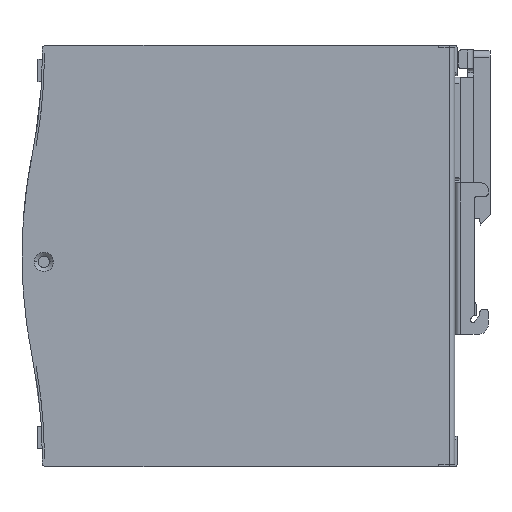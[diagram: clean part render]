
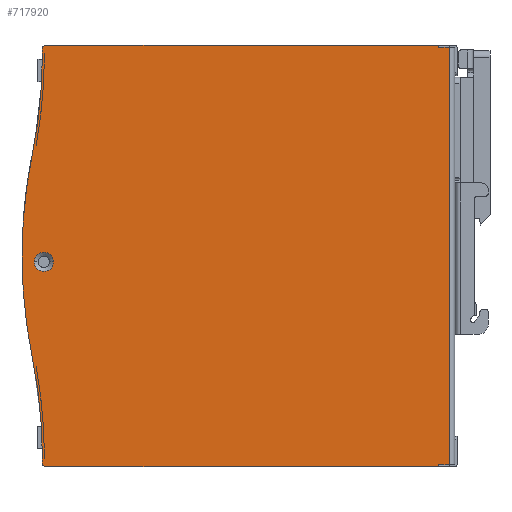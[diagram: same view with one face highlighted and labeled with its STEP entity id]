
A CAD part, front view. The second image highlights one B-rep face of the part: STEP entity #717920.
In plain terms, the highlighted planar face has unit normal (0, -1, 0).
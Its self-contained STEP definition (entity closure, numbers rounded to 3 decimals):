
#210=CARTESIAN_POINT('',(1778.628,13.486,
8925.08));
#220=VERTEX_POINT('',#210);
#250=CARTESIAN_POINT('',(1928.628,13.486,
8925.122));
#260=DIRECTION('',(0.,-1.,0.));
#270=DIRECTION('',(0.,0.,1.));
#280=AXIS2_PLACEMENT_3D('',#250,#260,#270);
#290=CIRCLE('',#280,150.);
#300=CARTESIAN_POINT('',(1781.106,13.486,
8952.276));
#310=VERTEX_POINT('',#300);
#320=EDGE_CURVE('',#310,#220,#290,.T.);
#11800=CARTESIAN_POINT('',(1782.251,13.486,9015.251))
;
#11810=VERTEX_POINT('',#11800);
#11840=CARTESIAN_POINT('',(1929.642,13.486,9045.252))
;
#11850=DIRECTION('',(0.,-1.,0.));
#11860=DIRECTION('',(1.,0.,0.));
#11870=AXIS2_PLACEMENT_3D('',#11840,#11850,#11860);
#11880=CIRCLE('',#11870,150.414);
#11890=CARTESIAN_POINT('',(1779.228,13.486,9045.252))
;
#11900=VERTEX_POINT('',#11890);
#11910=EDGE_CURVE('',#11900,#11810,#11880,.T.);
#20420=CARTESIAN_POINT('',(1634.793,13.486,8985.141))
;
#20430=DIRECTION('',(0.,-1.,0.));
#20440=DIRECTION('',(1.,0.,0.));
#20450=AXIS2_PLACEMENT_3D('',#20420,#20430,#20440);
#20460=CIRCLE('',#20450,150.5);
#20470=CARTESIAN_POINT('',(1782.251,13.486,8955.031))
;
#20480=VERTEX_POINT('',#20470);
#20490=CARTESIAN_POINT('',(1785.293,13.486,8985.141))
;
#20500=VERTEX_POINT('',#20490);
#20510=EDGE_CURVE('',#20480,#20500,#20460,.T.);
#20900=CARTESIAN_POINT('',(1779.228,13.486,8925.03))
;
#20910=VERTEX_POINT('',#20900);
#21070=CARTESIAN_POINT('',(1779.235,13.486,8923.551));
#21080=VERTEX_POINT('',#21070);
#21110=CARTESIAN_POINT('',(1929.642,13.486,8925.03))
;
#21120=DIRECTION('',(0.,-1.,0.));
#21130=DIRECTION('',(1.,0.,0.));
#21140=AXIS2_PLACEMENT_3D('',#21110,#21120,#21130);
#21150=CIRCLE('',#21140,150.414);
#21160=EDGE_CURVE('',#20910,#21080,#21150,.T.);
#118770=CARTESIAN_POINT('',(1778.628,13.486,
9045.202));
#118780=VERTEX_POINT('',#118770);
#118810=CARTESIAN_POINT('',(1929.659,13.486,9045.254)
);
#118820=DIRECTION('',(0.,-1.,0.));
#118830=DIRECTION('',(1.,0.,0.));
#118840=AXIS2_PLACEMENT_3D('',#118810,#118820,#118830);
#118850=CIRCLE('',#118840,151.031);
#118860=CARTESIAN_POINT('',(1781.106,13.486,
9018.007));
#118870=VERTEX_POINT('',#118860);
#118880=EDGE_CURVE('',#118780,#118870,#118850,.T.);
#218330=CARTESIAN_POINT('',(1778.235,13.486,9047.741));
#218340=VERTEX_POINT('',#218330);
#218370=CARTESIAN_POINT('',(0.,13.486,9047.741));
#218380=DIRECTION('',(1.,0.,0.));
#218390=VECTOR('',#218380,1.);
#218400=LINE('',#218370,#218390);
#218410=CARTESIAN_POINT('',(1661.527,13.486,9047.741))
;
#218420=VERTEX_POINT('',#218410);
#218430=EDGE_CURVE('',#218420,#218340,#218400,.T.);
#220910=CARTESIAN_POINT('',(1661.527,13.486,9047.141))
;
#220920=VERTEX_POINT('',#220910);
#221000=CARTESIAN_POINT('',(1661.527,13.486,0.));
#221010=DIRECTION('',(0.,0.,-1.));
#221020=VECTOR('',#221010,1.);
#221030=LINE('',#221000,#221020);
#221040=EDGE_CURVE('',#218420,#220920,#221030,.T.);
#227280=CARTESIAN_POINT('',(1661.527,13.486,8922.541))
;
#227290=VERTEX_POINT('',#227280);
#227490=CARTESIAN_POINT('',(1661.527,13.486,
8923.141));
#227500=VERTEX_POINT('',#227490);
#227530=EDGE_CURVE('',#227500,#227290,#221030,.T.);
#228320=CARTESIAN_POINT('',(1779.235,13.486,8923.541));
#228330=VERTEX_POINT('',#228320);
#228360=CARTESIAN_POINT('',(1778.235,13.486,8923.541));
#228370=DIRECTION('',(0.,-1.,0.));
#228380=DIRECTION('',(1.,0.,0.));
#228390=AXIS2_PLACEMENT_3D('',#228360,#228370,#228380);
#228400=CIRCLE('',#228390,1.);
#228410=EDGE_CURVE('',#228330,#21080,#228400,.T.);
#229340=CARTESIAN_POINT('',(1779.235,13.486,9046.741));
#229350=VERTEX_POINT('',#229340);
#229380=CARTESIAN_POINT('',(1778.235,13.486,9046.741));
#229390=DIRECTION('',(0.,-1.,0.));
#229400=DIRECTION('',(1.,0.,0.));
#229410=AXIS2_PLACEMENT_3D('',#229380,#229390,#229400);
#229420=CIRCLE('',#229410,1.);
#229430=EDGE_CURVE('',#229350,#218340,#229420,.T.);
#330700=CARTESIAN_POINT('',(0.,13.486,8922.541));
#330710=DIRECTION('',(-1.,0.,0.));
#330720=VECTOR('',#330710,1.);
#330730=LINE('',#330700,#330720);
#330740=CARTESIAN_POINT('',(1778.235,13.486,8922.541));
#330750=VERTEX_POINT('',#330740);
#330760=EDGE_CURVE('',#330750,#227290,#330730,.T.);
#684440=CARTESIAN_POINT('',(1929.659,13.486,8925.028)
);
#684450=DIRECTION('',(0.,-1.,0.));
#684460=DIRECTION('',(1.,0.,0.));
#684470=AXIS2_PLACEMENT_3D('',#684440,#684450,#684460);
#684480=CIRCLE('',#684470,151.031);
#684490=EDGE_CURVE('',#310,#220,#684480,.T.);
#715680=CARTESIAN_POINT('',(1928.628,13.486,
9045.16));
#715690=DIRECTION('',(0.,-1.,0.));
#715700=DIRECTION('',(0.,0.,1.));
#715710=AXIS2_PLACEMENT_3D('',#715680,#715690,#715700);
#715720=CIRCLE('',#715710,150.);
#715730=EDGE_CURVE('',#118780,#118870,#715720,.T.);
#716890=CARTESIAN_POINT('',(1658.393,13.486,
8923.141));
#716900=VERTEX_POINT('',#716890);
#716930=CARTESIAN_POINT('',(1754.346,13.486,
8923.141));
#716940=DIRECTION('',(-1.,0.,0.));
#716950=VECTOR('',#716940,1.);
#716960=LINE('',#716930,#716950);
#716970=EDGE_CURVE('',#227500,#716900,#716960,.T.);
#717180=CARTESIAN_POINT('',(1658.393,13.486,9047.141))
;
#717190=VERTEX_POINT('',#717180);
#717220=CARTESIAN_POINT('',(1658.393,13.486,
8997.141));
#717230=DIRECTION('',(0.,0.,1.));
#717240=VECTOR('',#717230,1.);
#717250=LINE('',#717220,#717240);
#717260=EDGE_CURVE('',#716900,#717190,#717250,.T.);
#717330=CARTESIAN_POINT('',(1768.013,13.486,
8997.141));
#717340=DIRECTION('',(0.,-1.,0.));
#717350=DIRECTION('',(1.,0.,0.));
#717360=AXIS2_PLACEMENT_3D('',#717330,#717340,#717350);
#717370=PLANE('',#717360);
#717380=ORIENTED_EDGE('',*,*,#717260,.F.);
#717390=CARTESIAN_POINT('',(1754.346,13.486,
9047.141));
#717400=DIRECTION('',(-1.,0.,0.));
#717410=VECTOR('',#717400,1.);
#717420=LINE('',#717390,#717410);
#717430=EDGE_CURVE('',#220920,#717190,#717420,.T.);
#717440=ORIENTED_EDGE('',*,*,#717430,.T.);
#717450=ORIENTED_EDGE('',*,*,#221040,.T.);
#717460=ORIENTED_EDGE('',*,*,#218430,.F.);
#717470=ORIENTED_EDGE('',*,*,#229430,.T.);
#717480=CARTESIAN_POINT('',(1779.235,13.486,9046.731));
#717490=VERTEX_POINT('',#717480);
#717500=EDGE_CURVE('',#717490,#229350,#229420,.T.);
#717510=ORIENTED_EDGE('',*,*,#717500,.T.);
#717520=EDGE_CURVE('',#717490,#11900,#11880,.T.);
#717530=ORIENTED_EDGE('',*,*,#717520,.F.);
#717540=ORIENTED_EDGE('',*,*,#11910,.F.);
#717550=EDGE_CURVE('',#20500,#11810,#20460,.T.);
#717560=ORIENTED_EDGE('',*,*,#717550,.T.);
#717570=ORIENTED_EDGE('',*,*,#20510,.T.);
#717580=EDGE_CURVE('',#20480,#20910,#21150,.T.);
#717590=ORIENTED_EDGE('',*,*,#717580,.F.);
#717600=ORIENTED_EDGE('',*,*,#21160,.F.);
#717610=ORIENTED_EDGE('',*,*,#228410,.T.);
#717620=EDGE_CURVE('',#330750,#228330,#228400,.T.);
#717630=ORIENTED_EDGE('',*,*,#717620,.T.);
#717640=ORIENTED_EDGE('',*,*,#330760,.F.);
#717650=ORIENTED_EDGE('',*,*,#227530,.T.);
#717660=ORIENTED_EDGE('',*,*,#716970,.F.);
#717670=EDGE_LOOP('',(#717660,#717650,#717640,#717630,#717610,#717600,
#717590,#717570,#717560,#717540,#717530,#717510,#717470,#717460,#717450,
#717440,#717380));
#717680=FACE_OUTER_BOUND('',#717670,.T.);
#717690=CARTESIAN_POINT('',(1778.793,13.486,
8986.891));
#717700=DIRECTION('',(0.,-1.,0.));
#717710=DIRECTION('',(-1.,0.,0.));
#717720=AXIS2_PLACEMENT_3D('',#717690,#717700,#717710);
#717730=CIRCLE('',#717720,2.85);
#717740=CARTESIAN_POINT('',(1775.943,13.486,
8986.891));
#717750=VERTEX_POINT('',#717740);
#717760=CARTESIAN_POINT('',(1781.643,13.486,
8986.891));
#717770=VERTEX_POINT('',#717760);
#717780=EDGE_CURVE('',#717750,#717770,#717730,.T.);
#717790=ORIENTED_EDGE('',*,*,#717780,.F.);
#717800=EDGE_CURVE('',#717770,#717750,#717730,.T.);
#717810=ORIENTED_EDGE('',*,*,#717800,.F.);
#717820=EDGE_LOOP('',(#717810,#717790));
#717830=FACE_BOUND('',#717820,.T.);
#717840=ORIENTED_EDGE('',*,*,#320,.F.);
#717850=ORIENTED_EDGE('',*,*,#684490,.T.);
#717860=EDGE_LOOP('',(#717850,#717840));
#717870=FACE_BOUND('',#717860,.T.);
#717880=ORIENTED_EDGE('',*,*,#118880,.T.);
#717890=ORIENTED_EDGE('',*,*,#715730,.F.);
#717900=EDGE_LOOP('',(#717890,#717880));
#717910=FACE_BOUND('',#717900,.T.);
#717920=ADVANCED_FACE('',(#717680,#717830,#717870,#717910),#717370,.T.);
